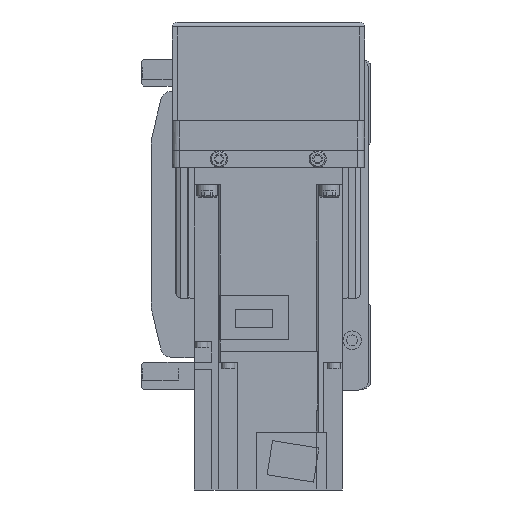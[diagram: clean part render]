
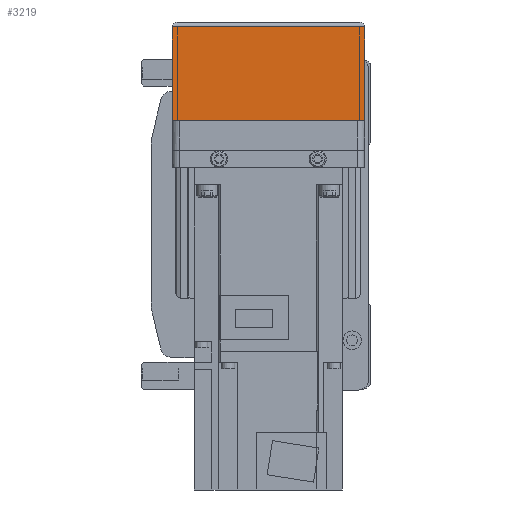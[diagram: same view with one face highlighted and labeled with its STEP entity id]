
A CAD part, left-side view. The second image highlights one B-rep face of the part: STEP entity #3219.
In plain terms, the highlighted planar face has unit normal (-1, 0, 0).
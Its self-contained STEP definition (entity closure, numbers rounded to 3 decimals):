
#3219 = ADVANCED_FACE( '', ( #6807 ), #6808, .F. );
#6807 = FACE_OUTER_BOUND( '', #10559, .T. );
#6808 = PLANE( '', #10560 );
#10559 = EDGE_LOOP( '', ( #19576, #19577, #19578, #19579 ) );
#10560 = AXIS2_PLACEMENT_3D( '', #19580, #19581, #19582 );
#19576 = ORIENTED_EDGE( '', *, *, #23752, .F. );
#19577 = ORIENTED_EDGE( '', *, *, #23803, .F. );
#19578 = ORIENTED_EDGE( '', *, *, #23697, .T. );
#19579 = ORIENTED_EDGE( '', *, *, #23119, .F. );
#19580 = CARTESIAN_POINT( '', ( -158., 36., 7. ) );
#19581 = DIRECTION( '', ( 1., 0., 0. ) );
#19582 = DIRECTION( '', ( 0., 0., -1. ) );
#23119 = EDGE_CURVE( '', #28365, #27855, #28367, .T. );
#23697 = EDGE_CURVE( '', #26112, #27855, #29175, .T. );
#23752 = EDGE_CURVE( '', #29250, #28365, #29252, .T. );
#23803 = EDGE_CURVE( '', #26112, #29250, #29328, .T. );
#26112 = VERTEX_POINT( '', #32622 );
#27855 = VERTEX_POINT( '', #35216 );
#28365 = VERTEX_POINT( '', #35980 );
#28367 = LINE( '', #35983, #35984 );
#29175 = LINE( '', #37423, #37424 );
#29250 = VERTEX_POINT( '', #37547 );
#29252 = LINE( '', #37550, #37551 );
#29328 = LINE( '', #37679, #37680 );
#32622 = CARTESIAN_POINT( '', ( -158., 39., -50. ) );
#35216 = CARTESIAN_POINT( '', ( -158., -39., -50. ) );
#35980 = CARTESIAN_POINT( '', ( -158., -39., -12.1 ) );
#35983 = CARTESIAN_POINT( '', ( -158., -39., -12.1 ) );
#35984 = VECTOR( '', #42121, 1000. );
#37423 = CARTESIAN_POINT( '', ( -158., 40., -50. ) );
#37424 = VECTOR( '', #42819, 1000. );
#37547 = CARTESIAN_POINT( '', ( -158., 39., -12.1 ) );
#37550 = CARTESIAN_POINT( '', ( -158., 50., -12.1 ) );
#37551 = VECTOR( '', #42872, 1000. );
#37679 = CARTESIAN_POINT( '', ( -158., 39., -50. ) );
#37680 = VECTOR( '', #42933, 1000. );
#42121 = DIRECTION( '', ( 0., 0., -1. ) );
#42819 = DIRECTION( '', ( 0., -1., 0. ) );
#42872 = DIRECTION( '', ( 0., -1., 0. ) );
#42933 = DIRECTION( '', ( 0., 0., 1. ) );
